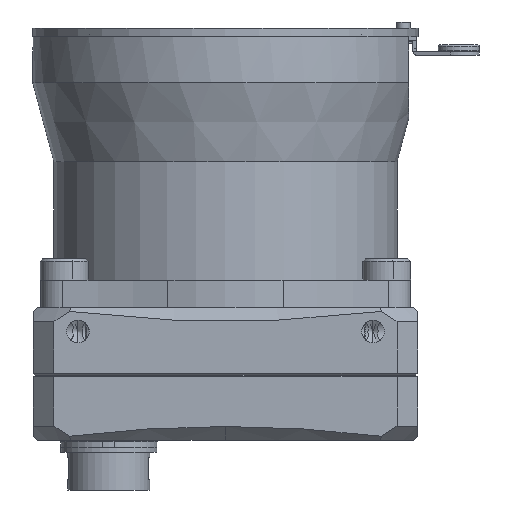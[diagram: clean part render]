
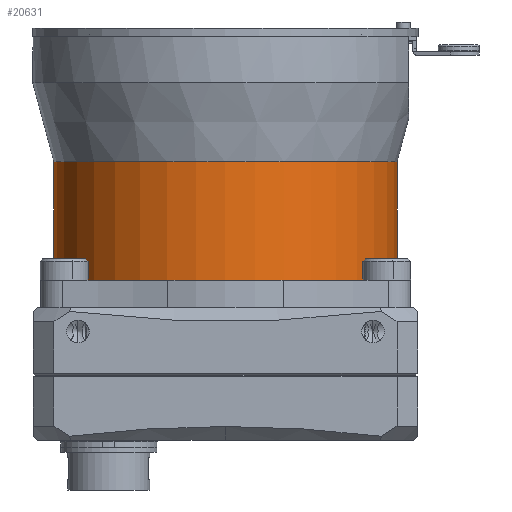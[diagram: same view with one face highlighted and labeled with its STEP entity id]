
A CAD part, front view. The second image highlights one B-rep face of the part: STEP entity #20631.
In plain terms, the highlighted cylindrical face has radius 25 mm (diameter 50 mm), a partial arc.
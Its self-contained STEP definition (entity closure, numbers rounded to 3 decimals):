
#773 = CIRCLE ( 'NONE', #47290, 25. ) ;
#814 = DIRECTION ( 'NONE',  ( 0., 0., 1. ) ) ;
#1226 = ORIENTED_EDGE ( 'NONE', *, *, #16664, .F. ) ;
#3425 = DIRECTION ( 'NONE',  ( 0., 0., 1. ) ) ;
#3767 = DIRECTION ( 'NONE',  ( 1., 0., 0. ) ) ;
#4825 = CARTESIAN_POINT ( 'NONE',  ( -25., 0., 21.2 ) ) ;
#5239 = VECTOR ( 'NONE', #3425, 1000. ) ;
#8263 = AXIS2_PLACEMENT_3D ( 'NONE', #17658, #814, #34493 ) ;
#8802 = FACE_OUTER_BOUND ( 'NONE', #11128, .T. ) ;
#9554 = CIRCLE ( 'NONE', #13966, 25. ) ;
#9690 = CARTESIAN_POINT ( 'NONE',  ( -25., 0., 4. ) ) ;
#9911 = DIRECTION ( 'NONE',  ( 0., 0., 1. ) ) ;
#10673 = VECTOR ( 'NONE', #9911, 1000. ) ;
#11128 = EDGE_LOOP ( 'NONE', ( #13487, #43615, #44428, #1226 ) ) ;
#12334 = DIRECTION ( 'NONE',  ( 0., 0., -1. ) ) ;
#13487 = ORIENTED_EDGE ( 'NONE', *, *, #44887, .F. ) ;
#13966 = AXIS2_PLACEMENT_3D ( 'NONE', #49661, #12334, #37416 ) ;
#16664 = EDGE_CURVE ( 'NONE', #44682, #51714, #773, .T. ) ;
#16916 = CARTESIAN_POINT ( 'NONE',  ( 25., 0., 4. ) ) ;
#17658 = CARTESIAN_POINT ( 'NONE',  ( 0., 0., 21.163 ) ) ;
#20631 = ADVANCED_FACE ( 'NONE', ( #8802 ), #51656, .T. ) ;
#22397 = CARTESIAN_POINT ( 'NONE',  ( 25., 0., 21.2 ) ) ;
#24830 = EDGE_CURVE ( 'NONE', #50699, #51714, #51668, .T. ) ;
#24981 = CARTESIAN_POINT ( 'NONE',  ( -25., 0., 21.163 ) ) ;
#29854 = EDGE_CURVE ( 'NONE', #50699, #45472, #9554, .T. ) ;
#34493 = DIRECTION ( 'NONE',  ( 1., 0., 0. ) ) ;
#34505 = CARTESIAN_POINT ( 'NONE',  ( 25., 0., 21.163 ) ) ;
#37416 = DIRECTION ( 'NONE',  ( -1., 0., 0. ) ) ;
#41160 = LINE ( 'NONE', #24981, #5239 ) ;
#41499 = DIRECTION ( 'NONE',  ( 0., 0., 1. ) ) ;
#43615 = ORIENTED_EDGE ( 'NONE', *, *, #29854, .F. ) ;
#44428 = ORIENTED_EDGE ( 'NONE', *, *, #24830, .T. ) ;
#44682 = VERTEX_POINT ( 'NONE', #4825 ) ;
#44887 = EDGE_CURVE ( 'NONE', #45472, #44682, #41160, .T. ) ;
#45472 = VERTEX_POINT ( 'NONE', #9690 ) ;
#45832 = CARTESIAN_POINT ( 'NONE',  ( 0., 0., 21.2 ) ) ;
#47290 = AXIS2_PLACEMENT_3D ( 'NONE', #45832, #41499, #3767 ) ;
#49661 = CARTESIAN_POINT ( 'NONE',  ( 0., 0., 4. ) ) ;
#50699 = VERTEX_POINT ( 'NONE', #16916 ) ;
#51656 = CYLINDRICAL_SURFACE ( 'NONE', #8263, 25. ) ;
#51668 = LINE ( 'NONE', #34505, #10673 ) ;
#51714 = VERTEX_POINT ( 'NONE', #22397 ) ;
